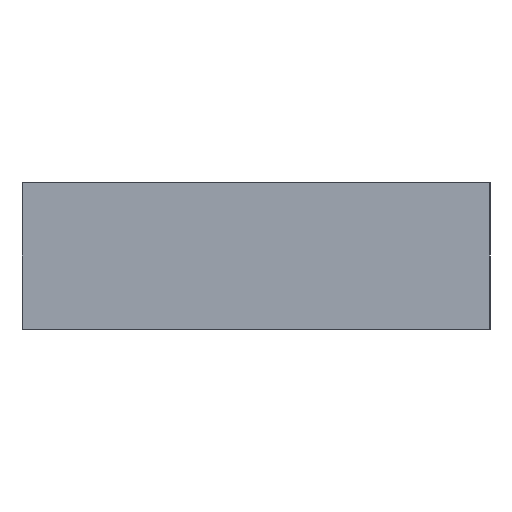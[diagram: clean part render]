
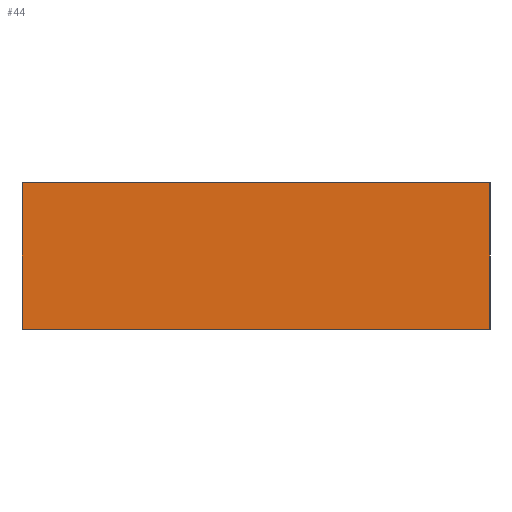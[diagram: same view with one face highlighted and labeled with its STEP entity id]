
A CAD part, left-side view. The second image highlights one B-rep face of the part: STEP entity #44.
In plain terms, the highlighted planar face has unit normal (-1, 0, 0).
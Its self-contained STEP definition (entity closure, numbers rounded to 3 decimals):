
#44 = ADVANCED_FACE( '', ( #93 ), #94, .F. );
#93 = FACE_OUTER_BOUND( '', #146, .T. );
#94 = PLANE( '', #147 );
#146 = EDGE_LOOP( '', ( #209, #210, #211, #212 ) );
#147 = AXIS2_PLACEMENT_3D( '', #213, #214, #215 );
#209 = ORIENTED_EDGE( '', *, *, #302, .T. );
#210 = ORIENTED_EDGE( '', *, *, #311, .F. );
#211 = ORIENTED_EDGE( '', *, *, #312, .F. );
#212 = ORIENTED_EDGE( '', *, *, #313, .T. );
#213 = CARTESIAN_POINT( '', ( -5., 0., 5. ) );
#214 = DIRECTION( '', ( 1., 0., 0. ) );
#215 = DIRECTION( '', ( 0., 0., -1. ) );
#302 = EDGE_CURVE( '', #338, #350, #352, .T. );
#311 = EDGE_CURVE( '', #365, #350, #366, .T. );
#312 = EDGE_CURVE( '', #367, #365, #368, .T. );
#313 = EDGE_CURVE( '', #367, #338, #369, .T. );
#338 = VERTEX_POINT( '', #400 );
#350 = VERTEX_POINT( '', #418 );
#352 = LINE( '', #421, #422 );
#365 = VERTEX_POINT( '', #438 );
#366 = LINE( '', #439, #440 );
#367 = VERTEX_POINT( '', #441 );
#368 = LINE( '', #442, #443 );
#369 = LINE( '', #444, #445 );
#400 = CARTESIAN_POINT( '', ( -5., 0., -5. ) );
#418 = CARTESIAN_POINT( '', ( -5., -32., -5. ) );
#421 = CARTESIAN_POINT( '', ( -5., 0., -5. ) );
#422 = VECTOR( '', #491, 1000. );
#438 = CARTESIAN_POINT( '', ( -5., -32., 5. ) );
#439 = CARTESIAN_POINT( '', ( -5., -32., 5. ) );
#440 = VECTOR( '', #501, 1000. );
#441 = CARTESIAN_POINT( '', ( -5., 0., 5. ) );
#442 = CARTESIAN_POINT( '', ( -5., 0., 5. ) );
#443 = VECTOR( '', #502, 1000. );
#444 = CARTESIAN_POINT( '', ( -5., 0., 5. ) );
#445 = VECTOR( '', #503, 1000. );
#491 = DIRECTION( '', ( 0., -1., 0. ) );
#501 = DIRECTION( '', ( 0., 0., -1. ) );
#502 = DIRECTION( '', ( 0., -1., 0. ) );
#503 = DIRECTION( '', ( 0., 0., -1. ) );
